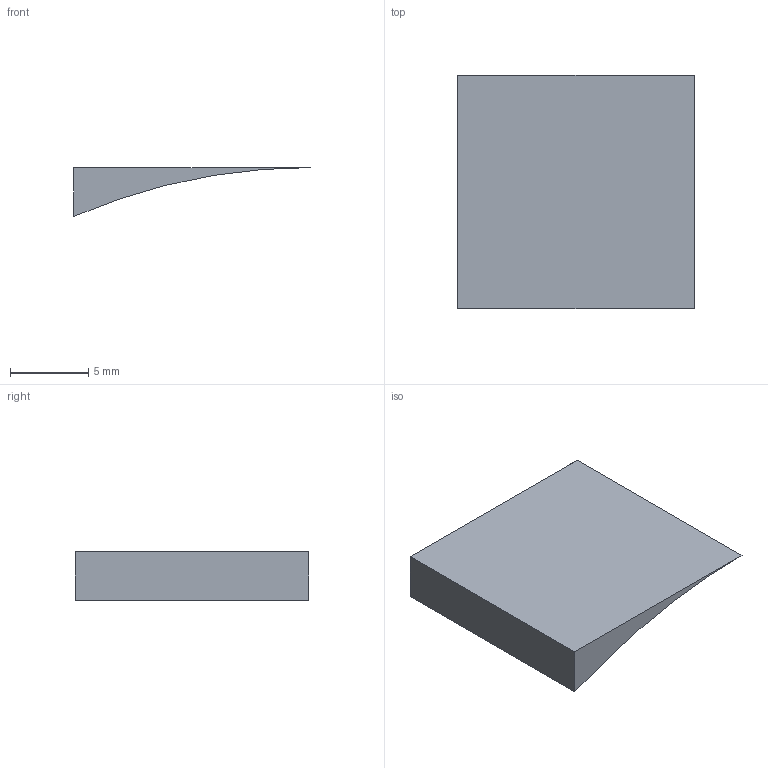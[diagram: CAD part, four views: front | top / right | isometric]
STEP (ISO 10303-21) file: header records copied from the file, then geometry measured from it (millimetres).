
FILE_DESCRIPTION(/* description */ ('STEP AP242 Edition 2','CAx-IF Rec.Pracs.---Representation and Presentation of Product Manufacturing Information (PMI)---4.0---2014-10-13','CAx-IF Rec.Pracs.---3D Tessellated Geometry---0.4---2014-09-14','2;1','CAx-IF Rec.Pracs.---User Defined Attributes---1.5---2016-08-15'),/* implementation_level */ '2;1');
FILE_NAME(/* name */ 'main - Part 48',/* time_stamp */ '2026-11-08T20:03:45Z',/* author */ (''),/* organization */ (''),/* preprocessor_version */ 'ST-DEVELOPER v20',/* originating_system */ 'ONSHAPE BY PTC INC, 1.223',/* authorisation */ ' ');
FILE_SCHEMA (('AP242_MANAGED_MODEL_BASED_3D_ENGINEERING_MIM_LF { 1 0 10303 442 3 1 4 }'));
Length unit declared in the file: metre
Products named in the file (1): Part 48
Bounding box: 15.09 x 14.9 x 3.12 mm (x, y, z)
Volume: 230.1 mm3; surface area: 533.5 mm2
Topology: 1 solids, 1 shells, 5 faces, 9 edges, 6 vertices
Faces by surface type: plane 4, cylinder 1
Entity records: 147 total; most frequent: DIRECTION 23, CARTESIAN_POINT 21, ORIENTED_EDGE 18, EDGE_CURVE 9, AXIS2_PLACEMENT_3D 8, LINE 7, VECTOR 7, VERTEX_POINT 6
